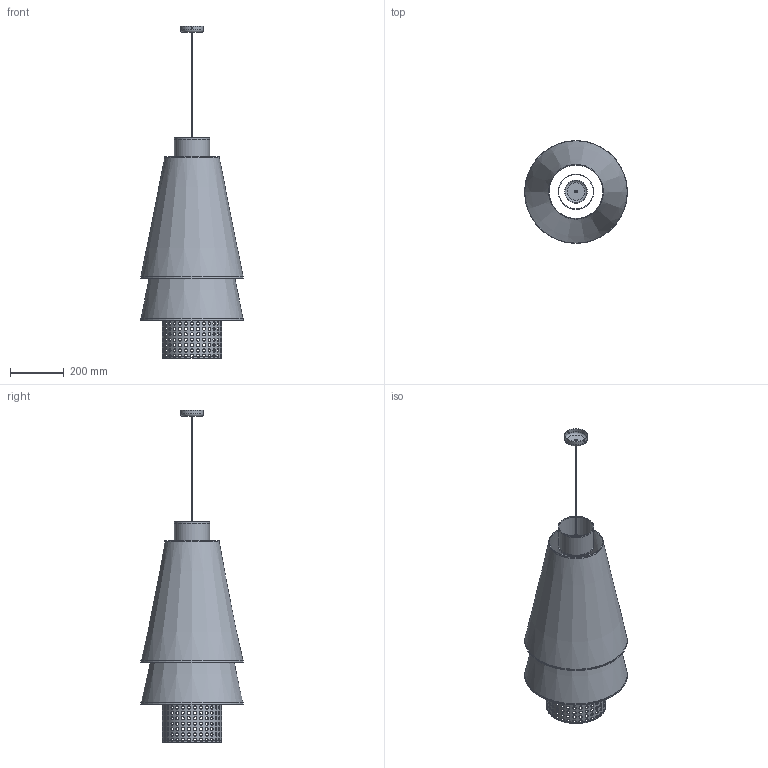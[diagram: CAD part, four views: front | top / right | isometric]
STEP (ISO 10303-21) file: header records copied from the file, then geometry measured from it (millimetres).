
FILE_DESCRIPTION( ( 'STEP AP203' ), '1' );
FILE_NAME( '//srvbf/BF Disegni/MARINELLI FABIO/SATURN/SATURN-S2A Sospensione P 3D.stp', '2020-10-15T13:28:45', ( ' ' ), ( ' ' ), 'XStep 1.0', ' ', ' ' );
FILE_SCHEMA( ( 'CONFIG_CONTROL_DESIGN) ( )' ) );
Length unit declared in the file: metre
Products named in the file (13): Assem1; 1; 2; 3; 4; 5; 6; 7; 8; 9; 10; 11; 12
Bounding box: 381.2 x 381.2 x 1230.5 mm (x, y, z)
Volume: 1120219.1 mm3; surface area: 2322091.8 mm2
Topology: 24 solids, 24 shells, 588 faces, 1610 edges, 1072 vertices
Faces by surface type: cylinder 522, plane 50, cone 12, torus 4
Full cylindrical faces by diameter (mm): 1 x2, 3 x2, 5 x4, 10 x2, 12 x480, 40 x2, 60 x2, 82 x2, 85 x2, 128 x2, 130 x2, 130.2 x4, 131.2 x4, 218 x2, 220 x2, 220.2 x4, 221.2 x4
Entity records: 48070 total; most frequent: CARTESIAN_POINT 40983, EDGE_LOOP 1072, ORIENTED_EDGE 1072, DIRECTION 718, FACE_OUTER_BOUND 557, EDGE_CURVE 536, VERTEX_POINT 536, FACE_BOUND 515
